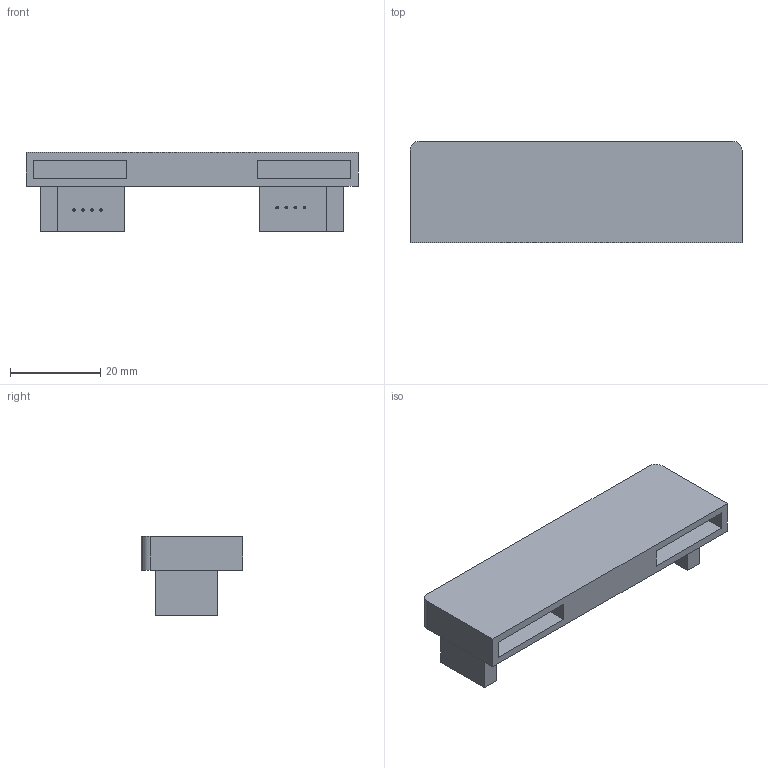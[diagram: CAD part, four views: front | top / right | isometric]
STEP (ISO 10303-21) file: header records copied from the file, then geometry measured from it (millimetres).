
FILE_DESCRIPTION(/* description */ ('STEP AP242 Edition 2','CAx-IF Rec.Pracs.---Representation and Presentation of Product Manufacturing Information (PMI)---4.0---2014-10-13','CAx-IF Rec.Pracs.---3D Tessellated Geometry---0.4---2014-09-14','2;1','CAx-IF Rec.Pracs.---User Defined Attributes---1.5---2016-08-15'),/* implementation_level */ '2;1');
FILE_NAME(/* name */ 'Part Studio 1 - BatteryTop1',/* time_stamp */ '2026-11-25T23:28:50Z',/* author */ (''),/* organization */ (''),/* preprocessor_version */ 'ST-DEVELOPER v20',/* originating_system */ 'ONSHAPE BY PTC INC, 1.224',/* authorisation */ ' ');
FILE_SCHEMA (('AP242_MANAGED_MODEL_BASED_3D_ENGINEERING_MIM_LF { 1 0 10303 442 3 1 4 }'));
Length unit declared in the file: metre
Products named in the file (1): BatteryTop1
Bounding box: 73.5 x 22.45 x 17.5 mm (x, y, z)
Volume: 11108.7 mm3; surface area: 8052.6 mm2
Topology: 1 solids, 1 shells, 68 faces, 146 edges, 96 vertices
Faces by surface type: plane 42, cylinder 14, torus 12
Full cylindrical faces by diameter (mm): 0.55 x8, 4.2 x4
Entity records: 1668 total; most frequent: DIRECTION 292, CARTESIAN_POINT 271, ORIENTED_EDGE 228, EDGE_CURVE 114, AXIS2_PLACEMENT_3D 109, EDGE_LOOP 108, FACE_BOUND 108, VERTEX_POINT 88
